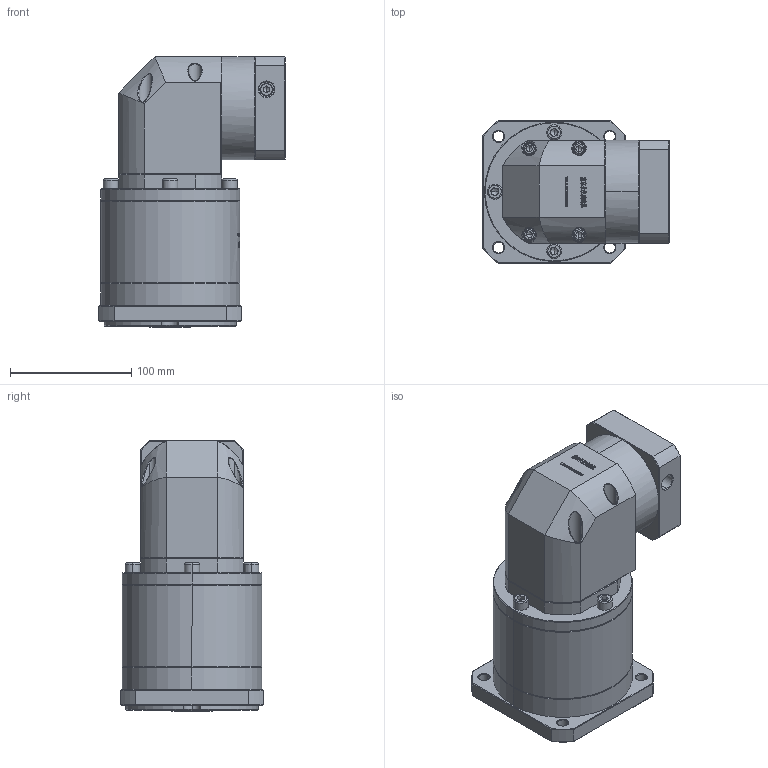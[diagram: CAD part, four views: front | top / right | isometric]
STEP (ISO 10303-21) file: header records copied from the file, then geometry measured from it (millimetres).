
FILE_DESCRIPTION (( 'STEP AP214' ), '1' );
FILE_NAME ('ZFR120A-K25-L3-12.7-73-69.5X69.5-M6.step', '2023-03-08T05:51:40', ( '' ), ( '' ), 'SwSTEP 2.0', 'SolidWorks 2016', '' );
FILE_SCHEMA (( 'AUTOMOTIVE_DESIGN' ));
Length unit declared in the file: millimetre
Products named in the file (1): ZFR120A-K25-L3-12.7-73-69.5X69.5-M6
Bounding box: 154.1 x 118 x 223.5 mm (x, y, z)
Volume: 2104600.2 mm3; surface area: 178709 mm2
Topology: 6 solids, 6 shells, 2942 faces, 7816 edges, 5020 vertices
Faces by surface type: plane 1571, bspline 616, cylinder 420, cone 321, torus 14
Entity records: 158225 total; most frequent: CARTESIAN_POINT 58533, ORIENTED_EDGE 15544, DIRECTION 11469, EDGE_CURVE 7772, VERTEX_POINT 5020, LINE 4875, VECTOR 4875, AXIS2_PLACEMENT_3D 3297
